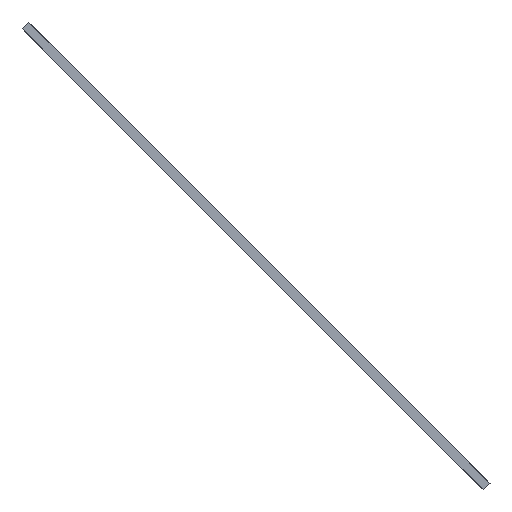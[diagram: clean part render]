
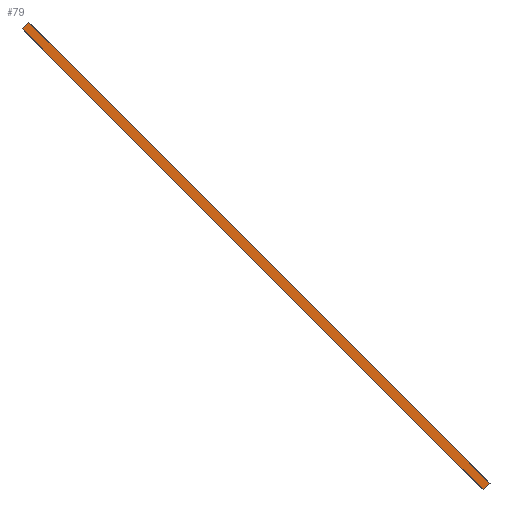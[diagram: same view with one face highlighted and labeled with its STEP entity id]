
A CAD part, front view. The second image highlights one B-rep face of the part: STEP entity #79.
In plain terms, the highlighted planar face has unit normal (0, -1, 0).
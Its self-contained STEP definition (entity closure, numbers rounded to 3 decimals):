
#79=ADVANCED_FACE('',(#7617),#7619,.T.);
#7617=FACE_BOUND('',#7618,.T.);
#7618=EDGE_LOOP('',(#7727,#7728,#7729,#7730));
#7619=PLANE('',#7620);
#7620=AXIS2_PLACEMENT_3D('',#7621,#7622,#7623);
#7621=CARTESIAN_POINT('',(38.838,-52.,68.908));
#7622=DIRECTION('',(0.,-1.,0.));
#7623=DIRECTION('',(0.707,0.,-0.707));
#7727=ORIENTED_EDGE('',*,*,#7770,.T.);
#7728=ORIENTED_EDGE('',*,*,#7775,.T.);
#7729=ORIENTED_EDGE('',*,*,#7738,.F.);
#7730=ORIENTED_EDGE('',*,*,#7777,.F.);
#7738=EDGE_CURVE('',#7792,#7788,#7794,.T.);
#7770=EDGE_CURVE('',#7856,#7854,#7857,.T.);
#7775=EDGE_CURVE('',#7854,#7788,#7864,.T.);
#7777=EDGE_CURVE('',#7856,#7792,#7867,.T.);
#7788=VERTEX_POINT('',#7880);
#7792=VERTEX_POINT('',#7888);
#7794=LINE('',#7892,#7893);
#7854=VERTEX_POINT('',#10618);
#7856=VERTEX_POINT('',#10622);
#7857=LINE('',#10623,#10624);
#7864=LINE('',#10640,#10641);
#7867=LINE('',#10647,#10648);
#7880=CARTESIAN_POINT('',(186.019,-52.,-74.031));
#7888=CARTESIAN_POINT('',(40.959,-52.,71.029));
#7892=CARTESIAN_POINT('',(40.959,-52.,71.029));
#7893=VECTOR('',#7894,1.);
#7894=DIRECTION('',(0.707,0.,-0.707));
#10618=CARTESIAN_POINT('',(183.898,-52.,-76.152));
#10622=CARTESIAN_POINT('',(38.838,-52.,68.908));
#10623=CARTESIAN_POINT('',(38.838,-52.,68.908));
#10624=VECTOR('',#10625,1.);
#10625=DIRECTION('',(0.707,0.,-0.707));
#10640=CARTESIAN_POINT('',(183.898,-52.,-76.152));
#10641=VECTOR('',#10642,1.);
#10642=DIRECTION('',(0.707,0.,0.707));
#10647=CARTESIAN_POINT('',(38.838,-52.,68.908));
#10648=VECTOR('',#10649,1.);
#10649=DIRECTION('',(0.707,0.,0.707));
